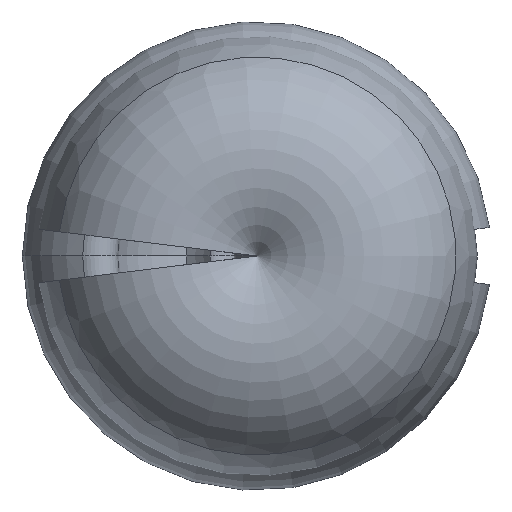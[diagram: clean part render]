
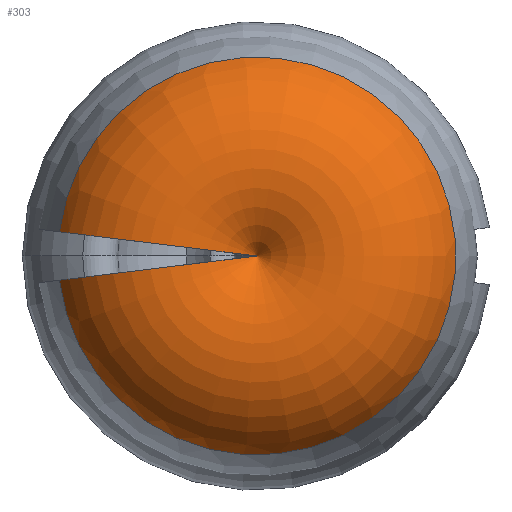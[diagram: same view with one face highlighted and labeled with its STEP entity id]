
A CAD part, front view. The second image highlights one B-rep face of the part: STEP entity #303.
In plain terms, the highlighted toroidal (fillet/blend) face has major radius 238.392 mm and minor radius 321.6 mm.
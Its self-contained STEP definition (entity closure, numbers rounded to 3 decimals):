
#11 = AXIS2_PLACEMENT_3D ( 'NONE', #112, #319, #462 ) ;
#46 = AXIS2_PLACEMENT_3D ( 'NONE', #908, #555, #904 ) ;
#55 = DIRECTION ( 'NONE',  ( -0.122, 0., -0.993 ) ) ;
#112 = CARTESIAN_POINT ( 'NONE',  ( 0., 77.53, 0. ) ) ;
#119 = DIRECTION ( 'NONE',  ( 0.122, 0., -0.993 ) ) ;
#173 = CIRCLE ( 'NONE', #11, 529.861 ) ;
#205 = ORIENTED_EDGE ( 'NONE', *, *, #760, .F. ) ;
#210 = DIRECTION ( 'NONE',  ( -0.993, 0., 0.122 ) ) ;
#215 = TOROIDAL_SURFACE ( 'NONE', #46, 238.392, 321.6 ) ;
#269 = CARTESIAN_POINT ( 'NONE',  ( -525.911, 77.53, -64.574 ) ) ;
#300 = ORIENTED_EDGE ( 'NONE', *, *, #381, .F. ) ;
#303 = ADVANCED_FACE ( 'NONE', ( #562 ), #215, .T. ) ;
#319 = DIRECTION ( 'NONE',  ( 0., 1., 0. ) ) ;
#348 = EDGE_CURVE ( 'NONE', #713, #350, #701, .T. ) ;
#350 = VERTEX_POINT ( 'NONE', #269 ) ;
#357 = EDGE_LOOP ( 'NONE', ( #205, #300, #822 ) ) ;
#381 = EDGE_CURVE ( 'NONE', #713, #632, #619, .T. ) ;
#462 = DIRECTION ( 'NONE',  ( -1., 0., 0. ) ) ;
#504 = AXIS2_PLACEMENT_3D ( 'NONE', #851, #55, #210 ) ;
#555 = DIRECTION ( 'NONE',  ( 0., 1., 0. ) ) ;
#562 = FACE_OUTER_BOUND ( 'NONE', #357, .T. ) ;
#619 = CIRCLE ( 'NONE', #504, 321.6 ) ;
#632 = VERTEX_POINT ( 'NONE', #808 ) ;
#634 = DIRECTION ( 'NONE',  ( -0.993, 0., -0.122 ) ) ;
#690 = CARTESIAN_POINT ( 'NONE',  ( 0., -2.416, 0. ) ) ;
#701 = CIRCLE ( 'NONE', #799, 321.6 ) ;
#713 = VERTEX_POINT ( 'NONE', #690 ) ;
#760 = EDGE_CURVE ( 'NONE', #632, #350, #173, .T. ) ;
#799 = AXIS2_PLACEMENT_3D ( 'NONE', #913, #119, #634 ) ;
#808 = CARTESIAN_POINT ( 'NONE',  ( -525.911, 77.53, 64.574 ) ) ;
#822 = ORIENTED_EDGE ( 'NONE', *, *, #348, .T. ) ;
#851 = CARTESIAN_POINT ( 'NONE',  ( -236.615, 213.445, 29.053 ) ) ;
#904 = DIRECTION ( 'NONE',  ( -1., 0., 0. ) ) ;
#908 = CARTESIAN_POINT ( 'NONE',  ( 0., 213.445, 0. ) ) ;
#913 = CARTESIAN_POINT ( 'NONE',  ( -236.615, 213.445, -29.053 ) ) ;
